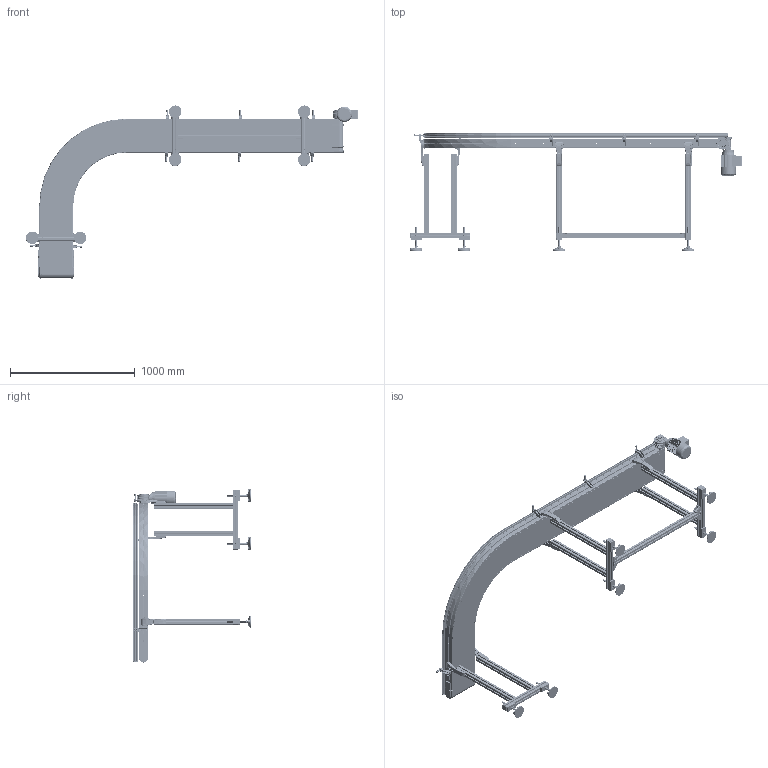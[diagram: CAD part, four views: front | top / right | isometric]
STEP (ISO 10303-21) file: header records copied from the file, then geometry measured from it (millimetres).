
FILE_DESCRIPTION (( 'STEP AP203' ), '1' );
FILE_NAME ('NASTRO_3020.step', '2026-06-05T09:20:38', ( 'Utente Windows' ), ( '' ), 'SwSTEP 2.0', 'SolidWorks 2024', '' );
FILE_SCHEMA (( 'CONFIG_CONTROL_DESIGN' ));
Length unit declared in the file: millimetre
Products named in the file (56): 084.802.017_084.802.017; 084.307.006; 084.802.077_chiuso; FLANGIA_GAMBA; VITI TE UNI 5739_M8x16 UNI 5739; 084.201.012-1; 084.302.000 DADI ALUSIC 13x13-1_084.302.009; CATENA_3020_LSX; RONDELLE FASCIA LARGA UNI 6593_6.4x24 UNI 6593; ANGOLARE_43; 084.711.010; CH04P_DX; 084.808.012; 2010.000.069; 084.301.000 VITI ALUSIC1_084.301.003; 3020.009.200; TRAVERSA_SINGOLA_Default<A macchina>; 084.711.005; PIEDE; 084.302.000 DADI ALUSIC 13x13_084.302.004; 084.807.003_084.807.003<A macchina>; CHIAVETTE_A 5x5x30 UNI 6604-69; CURVA_3020_9_DX_Default<A macchina>; VITI TE UNI 5739_M6x16 UNI 5739; 084.802.076_chiuso; 084.305.003-1; 2010.000.068_L; 084.802.008; 2010.000.068; GAMBE_3020_Default<A macchina>; 3020.006.130_DX; 084.711.006_PER CAVA 8 PERNO ALTO 1; TELAIO_3020_9_1_Default<A macchina>; 3020.009.002; 084.402.005; 084.711.006_L1; CHIAVETTE_A 5x5x50 UNI 6604-69; 084.302.000 DADI ALUSIC 13x13-1_084.302.004; 084.301.000 VITI ALUSIC_084.301.003; 3020.000.005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
Assembly tree (140 placements, depth 4):
  NASTRO_3020
    CATENA_3020_LSX
    3020.006.130_DX
      084.807.003_084.807.003<A macchina>  x2
      084.802.017_084.802.017  x2
      084.301.000 VITI ALUSIC_084.301.003  x4
      084.302.000 DADI ALUSIC 13x13_084.302.004  x4
      3020.006.003
      VITI TE UNI 5739_M8x16 UNI 5739
      084.802.062
      VITI TSEI UNI 5933 INOX_0410UNI5933A2  x4
      CHIAVETTE_A 5x5x50 UNI 6604-69
      CHIAVETTE_A 5x5x30 UNI 6604-69  x2
      3020.000.005  x2
      RONDELLE FASCIA LARGA UNI 6593_6.4x24 UNI 6593
      VITI TE UNI 5739_M6x16 UNI 5739
      084.802.077_chiuso
      084.802.078_chiuso con cono
      084.808.012
      RONDELLE UNI 6592_8.4x17 UNI 6592
    CURVA_3020_9_DX_Default<A macchina>
    3020.009.200
      084.802.008  x2
      084.301.000 VITI ALUSIC_084.301.003  x6
      084.302.000 DADI ALUSIC 13x13_084.302.004  x6
      3020.000.007
      3020.009.002
      084.807.014_084.807.002  x2
      084.802.076_chiuso  x2
      VITI TSEI UNI 5933 INOX_0410UNI5933A2  x4
    084.307.006
    TELAIO_3020_9_1_Default<A macchina>
    TELAIO_3020_9_2_Default<A macchina>
    084.712.002  x4
    084.711.006_PER CAVA 8 PERNO ALTO 1  x10
      084.711.006_L1
      084.711.006_L2
      084.711.007
      084.711.005
      084.711.010
      DADI ESAGONALI NORMALI UNI 5588_M6 UNI 5588
    SPONDA_L_SX_Default<A macchina>
    GAMBE_3020_Default<A macchina>  x3
    FLANGIA_GAMBA  x6
      084.302.000 DADI ALUSIC 13x13-1_084.302.004
      RONDELLE UNI 6592_8.4x17 UNI 6592
      084.301.000 VITI ALUSIC_084.301.003
      2010.000.068
        2010.000.068_L
        2010.000.069
        2010.000.070
    PIEDE  x6
      084.405.001
      084.402.005
      084.301.000 VITI ALUSIC1_084.301.003
    084.201.012-1  x12
    ANGOLARE_43  x4
      084.305.003-1
      084.302.000 DADI ALUSIC 13x13-1_084.302.009
      084.301.000 VITI ALUSIC_084.301.003
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Bounding box: 2658.2 x 946.15 x 1385.47 mm (x, y, z)
Volume: 24877338.1 mm3; surface area: 12845459 mm2
Topology: 346 solids, 354 shells, 18883 faces, 49164 edges, 31224 vertices
Faces by surface type: plane 7541, cylinder 6481, cone 1745, bspline 1712, torus 1220, sphere 184
Entity records: 229421 total; most frequent: CARTESIAN_POINT 74334, ORIENTED_EDGE 31932, DIRECTION 29551, EDGE_CURVE 15966, AXIS2_PLACEMENT_3D 10241, VERTEX_POINT 10237, VECTOR 9069, LINE 9069
